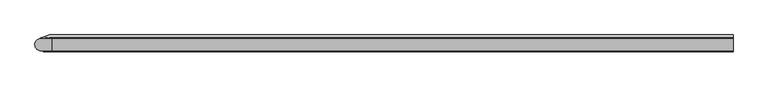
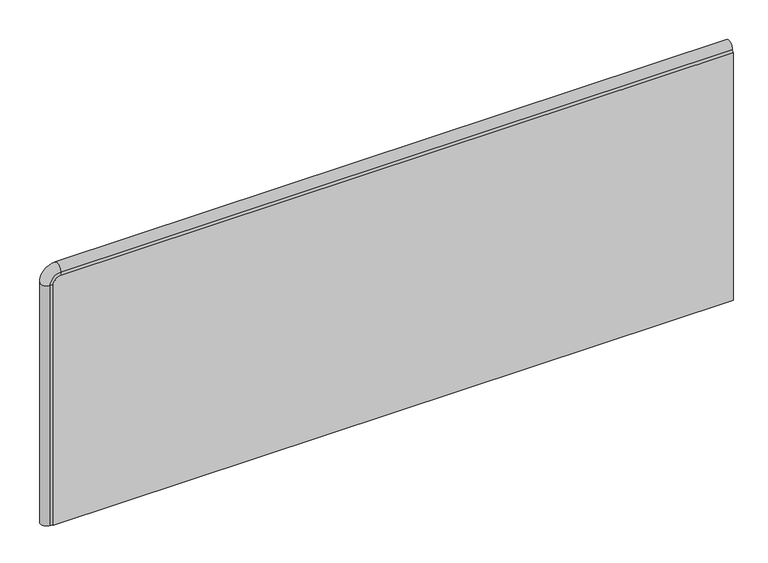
"""IFC4 building model written with IfcOpenShell, lengths in millimetres: proxy geometry, CCN^BRIGHTON_L4-LT RETURN TOP-PARTS SOLID."""

from ifc_helpers import new_model, si_unit, point, frame, origin, place, context, project, spatial, polyline, circle_curve, ellipse_curve, trimmed, outline, extrude, source, transform, mapped, element, save
from ifc_brep_helpers import plane_surface, cylinder_surface, revolved_surface, advanced_brep


def generic_models_a6d3b8ae(model_context):
    return source(origin(), model_context, "Body", "SolidModel", [
        extrude(outline(polyline([(-1524.0, 38.1), (-1524.0, 0.0), (-3308.3601405, 0.0), (-3308.3601405, 38.1), (-1524.0, 38.1)])), frame((0.0, 0.0, -673.1), z_axis=(0.0, 0.0, 1.0), x_axis=(1.0, 0.0, 0.0)), (0.0, 0.0, 1.0), 673.1),
        advanced_brep(
        [(-1524.0, 38.1, -673.1), (-1524.0, -6.35, -673.1), (-3329.8483792, -6.35, -673.1), (-3335.801212, -3.1912197, -673.1), (-3336.9351405, 28.5182311, -673.1), (-3336.9351405, 30.1057311, -673.1), (-3314.9710672, 38.1, -673.1), (-1524.0, -6.35, 21.4882387), (-3308.3601405, -6.35, 21.4882387), (-3329.8483792, -6.35, 0.0), (-3328.5657168, 33.1519522, 20.2055763), (-3308.3601405, 30.1057311, 28.575), (-1524.0, 30.1057311, 28.575), (-1524.0, 38.1, 6.6109266), (-3314.9710672, 38.1, 6.6109266), (-3336.9351405, 30.1057311, 0.0), (-3336.9351405, 28.5182311, 0.0), (-3308.3601405, 28.5182311, 28.575), (-1524.0, 28.5182311, 28.575), (-1524.0, -3.1912197, 27.4410714), (-3335.801212, -3.1912197, 0.0), (-3308.3601405, -3.1912197, 27.4410714)],
        [
            (0, 1),
            (1, 2),
            (2, 3, circle_curve(frame((-3335.3476405, -9.525, -673.1), z_axis=(0.0, 0.0, 1.0), x_axis=(-0.8660254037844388, -0.4999999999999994, 0.0)), 6.35)),
            (3, 4, circle_curve(frame((-3336.9351405, 12.6432311, -673.1), z_axis=(0.0, 0.0, -1.0), x_axis=(-0.9993612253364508, -0.03573711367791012, 0.0)), 15.875)),
            (4, 5),
            (5, 6),
            (6, 0),
            (1, 7),
            (7, 8),
            (8, 9, circle_curve(frame((-3308.3601405, -6.35, 0.0), z_axis=(0.0, -1.0, 0.0), x_axis=(0.0, 0.0, 1.0)), 21.4882387)),
            (9, 2),
            (10, 11, ellipse_curve(frame((-3308.3601405, 40.5061805, 0.0), z_axis=(0.0, 0.9396926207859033, 0.34202014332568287), x_axis=(0.0, -0.34202014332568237, 0.9396926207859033)), 30.4088798, 28.575)),
            (11, 12),
            (12, 13),
            (13, 14),
            (14, 10),
            (14, 6),
            (5, 15),
            (15, 10, ellipse_curve(frame((-3308.3601405, 40.5061805, 0.0), z_axis=(-0.34202014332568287, 0.9396926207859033, 0.0), x_axis=(-0.9396926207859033, -0.34202014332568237, 0.0)), 30.4088798, 28.575)),
            (15, 16),
            (16, 17, circle_curve(frame((-3308.3601405, 28.5182311, 0.0), z_axis=(0.0, 1.0, 0.0), x_axis=(0.0, 0.0, 1.0)), 28.575)),
            (17, 11),
            (12, 18),
            (18, 19, circle_curve(frame((-1524.0, 12.6432311, 28.575), z_axis=(1.0, 0.0, 0.0), x_axis=(0.0, -1.0, 0.0)), 15.875)),
            (19, 7, circle_curve(frame((-1524.0, -9.525, 26.9875), z_axis=(-1.0, 0.0, 0.0), x_axis=(0.0, 0.4999999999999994, -0.8660254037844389)), 6.35)),
            (0, 13),
            (4, 16),
            (9, 20, circle_curve(frame((-3335.3476405, -9.525, 0.0), z_axis=(0.0, 0.0, 1.0), x_axis=(-0.8660254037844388, -0.4999999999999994, 0.0)), 6.35)),
            (20, 3),
            (20, 16, circle_curve(frame((-3336.9351405, 12.6432311, 0.0), z_axis=(0.0, 0.0, -1.0), x_axis=(-0.9993612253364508, -0.03573711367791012, 0.0)), 15.875)),
            (8, 21, circle_curve(frame((-3308.3601405, -9.525, 26.9875), z_axis=(1.0, 0.0, 0.0), x_axis=(0.0, 0.0, 1.0)), 6.35)),
            (21, 20, circle_curve(frame((-3308.3601405, -3.1912197, 0.0), z_axis=(0.0, -1.0, 0.0), x_axis=(0.0, 0.0, 1.0)), 27.4410714)),
            (21, 17, circle_curve(frame((-3308.3601405, 12.6432311, 28.575), z_axis=(-1.0, 0.0, 0.0), x_axis=(0.0, 0.0, 1.0)), 15.875)),
            (19, 21),
            (18, 17),
        ],
        [
            plane_surface(frame((-3330.5851405, 15.875, -673.1), z_axis=(0.0, 0.0, -1.0), x_axis=(-1.0, 0.0, 0.0))),
            plane_surface(frame((-1524.0, -6.35, 0.0), z_axis=(0.0, -1.0, 0.0), x_axis=(-1.0, 0.0, 0.0))),
            plane_surface(frame((-3308.3601405, 35.5186338, 13.7031721), z_axis=(0.0, 0.9396926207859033, 0.34202014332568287), x_axis=(0.0, -0.34202014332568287, 0.9396926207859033))),
            plane_surface(frame((-3322.0633126, 35.5186338, 0.0), z_axis=(-0.34202014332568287, 0.9396926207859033, 0.0), x_axis=(-0.9396926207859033, -0.34202014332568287, 0.0))),
            cylinder_surface(frame((-3308.3601405, 29.3119811, 0.0), z_axis=(0.0, -1.0, 0.0), x_axis=(0.0, 0.0, 1.0)), 28.575),
            plane_surface(frame((-1524.0, 38.1, -647.7), z_axis=(1.0, 0.0, 0.0), x_axis=(0.0, 0.0, 1.0))),
            plane_surface(frame((-3336.9351405, 30.1057311, 0.0), z_axis=(-1.0, 0.0, 0.0), x_axis=(0.0, -1.0, 0.0))),
            plane_surface(frame((-3308.3601405, 38.1, 0.0), z_axis=(0.0, 1.0, 0.0), x_axis=(1.0, 0.0, 0.0))),
            revolved_surface(polyline([(-3340.8469018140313, -12.699999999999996, 0.0), (-3340.8469018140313, -12.699999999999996, -673.0999999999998)]), (-3335.3476405, -9.525, 0.0), (0.0, 0.0, 0.9999999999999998)),
            cylinder_surface(frame((-3336.9351405, 12.6432311, 0.0), z_axis=(0.0, 0.0, 1.0000000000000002), x_axis=(-0.9993612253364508, -0.03573711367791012, 0.0)), 15.875),
            revolved_surface(trimmed(ellipse_curve(frame((-3308.3601405, -9.525, 26.9875), z_axis=(-1.0, 0.0, 0.0), x_axis=(0.0, 0.0, 1.0)), 6.35, 6.35), [point((-3308.3601405, -3.1912197, 27.4410714))], [point((-3308.3601405, -6.35, 21.4882387))], True, "CARTESIAN"), (-3308.3601405, -9.525, 0.0), (0.0, -1.0, 0.0)),
            revolved_surface(trimmed(ellipse_curve(frame((-3308.3601405, 12.6432311, 28.575), z_axis=(1.0, 0.0, 0.0), x_axis=(0.0, 0.0, 1.0)), 15.875, 15.875), [point((-3308.3601405, 28.5182311, 28.575))], [point((-3308.3601405, -3.1912197, 27.4410714))], True, "CARTESIAN"), (-3308.3601405, 12.6432311, 0.0), (0.0, -1.0, 0.0)),
            revolved_surface(polyline([(-3308.3601405, -6.350000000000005, 21.488238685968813), (-1524.000000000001, -6.350000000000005, 21.488238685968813)]), (-3308.3601405, -9.525, 26.9875), (-0.9999999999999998, 0.0, 0.0)),
            cylinder_surface(frame((-3308.3601405, 12.6432311, 28.575), z_axis=(-1.0, 0.0, 0.0), x_axis=(0.0, -1.0, 0.0)), 15.875),
            plane_surface(frame((-3308.3601405, 30.1057311, 28.575), z_axis=(0.0, 0.0, 1.0), x_axis=(0.0, -1.0, 0.0))),
        ],
        [
            (0, [[1, 2, 3, 4, 5, 6, 7]]),
            (1, [[-2, 8, 9, 10, 11]]),
            (2, [[12, 13, 14, 15, 16]]),
            (3, [[-16, 17, -6, 18, 19]]),
            (4, [[-12, -19, 20, 21, 22]]),
            (5, [[-14, 23, 24, 25, -8, -1, 26]]),
            (6, [[27, -20, -18, -5]]),
            (7, [[-15, -26, -7, -17]]),
            (8, [[-11, 28, 29, -3]]),
            (9, [[-29, 30, -27, -4]]),
            (10, [[31, 32, -28, -10]]),
            (11, [[33, -21, -30, -32]]),
            (12, [[-25, 34, -31, -9]]),
            (13, [[-24, 35, -33, -34]]),
            (14, [[-23, -13, -22, -35]]),
        ],
    ),
    ])


if __name__ == "__main__":
    model = new_model("IFC4")
    model_context = context("Model", 3, world=origin())
    ifc_project = project(units=[si_unit("LENGTHUNIT", "METRE", prefix="MILLI")], contexts=[model_context])
    site = spatial("IfcSite", under=ifc_project)
    building = spatial("IfcBuilding", under=site)
    placement = place(None, origin())
    generic_models_shape = generic_models_a6d3b8ae(model_context)
    element("IfcBuildingElementProxy", 1, Name="CCN^BRIGHTON_L4-LT RETURN TOP-PARTS SOLID", ObjectType="CCN^BRIGHTON_L4-LT RETURN TOP-PARTS SOLID", at=placement, inside=building, context=model_context, shape_type="MappedRepresentation", body=[
        mapped(generic_models_shape, transform((0.0, 0.0, 0.0), x_axis=(1.0, 0.0, 0.0), y_axis=(0.0, 1.0, 0.0), z_axis=(0.0, 0.0, 1.0))),
    ])
    save(model, "model.ifc")
